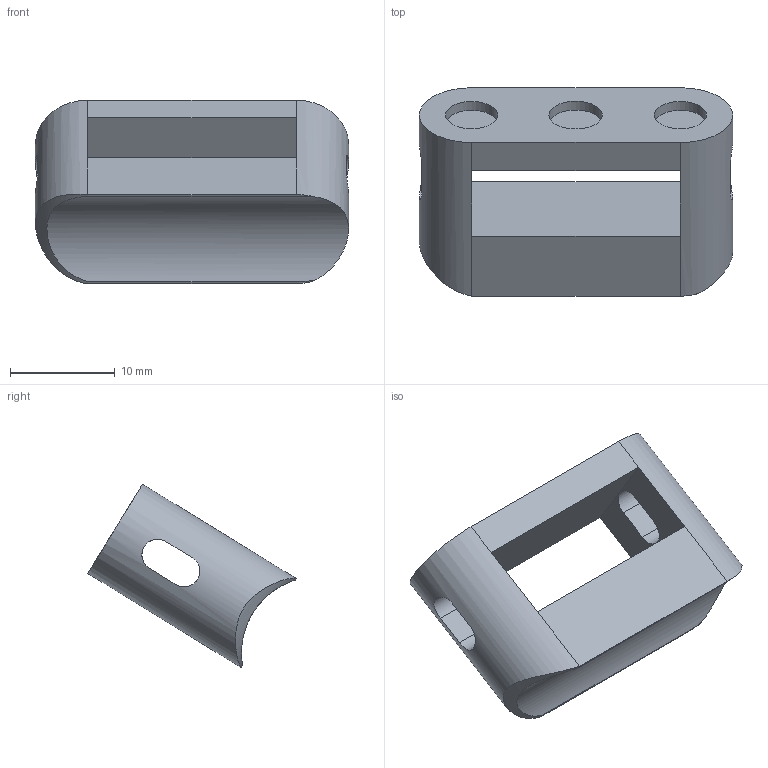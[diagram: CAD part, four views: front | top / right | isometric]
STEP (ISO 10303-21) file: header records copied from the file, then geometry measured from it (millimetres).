
FILE_DESCRIPTION(/* description */ ('STEP AP242 Edition 2','CAx-IF Rec.Pracs.---Representation and Presentation of Product Manufacturing Information (PMI)---4.0---2014-10-13','CAx-IF Rec.Pracs.---3D Tessellated Geometry---0.4---2014-09-14','2;1','CAx-IF Rec.Pracs.---User Defined Attributes---1.5---2016-08-15'),/* implementation_level */ '2;1');
FILE_NAME(/* name */ 'Controller - left trigger 2',/* time_stamp */ '2026-11-08T20:41:34Z',/* author */ (''),/* organization */ (''),/* preprocessor_version */ 'ST-DEVELOPER v20',/* originating_system */ 'ONSHAPE BY PTC INC, 1.223',/* authorisation */ ' ');
FILE_SCHEMA (('AP242_MANAGED_MODEL_BASED_3D_ENGINEERING_MIM_LF { 1 0 10303 442 3 1 4 }'));
Length unit declared in the file: metre
Products named in the file (1): left trigger 2
Bounding box: 29.93 x 19.91 x 17.54 mm (x, y, z)
Volume: 2765 mm3; surface area: 2156.2 mm2
Topology: 1 solids, 1 shells, 31 faces, 72 edges, 44 vertices
Faces by surface type: plane 18, cylinder 13
Full cylindrical faces by diameter (mm): 5 x2, 5.1 x1
Entity records: 923 total; most frequent: CARTESIAN_POINT 209, ORIENTED_EDGE 138, DIRECTION 134, EDGE_CURVE 69, LINE 46, VECTOR 46, VERTEX_POINT 44, AXIS2_PLACEMENT_3D 44
